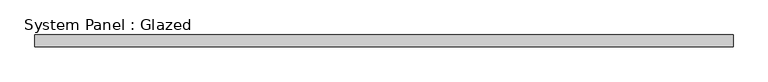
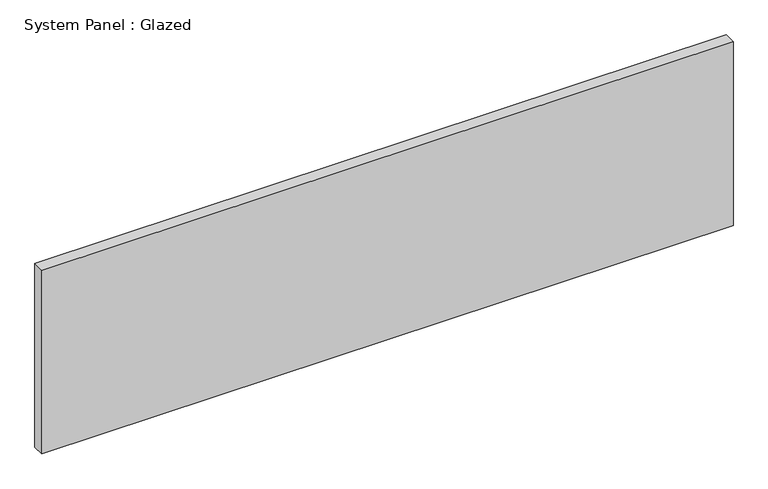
"""IFC4 building model written with IfcOpenShell, lengths in millimetres: plate geometry, System Panel : Glazed."""

from ifc_helpers import new_model, si_unit, origin, origin_with_axes, place, context, project, spatial, polyline, outline, extrude, source, transform, mapped, element, save


def system_panel_glazed_99bfd8de(model_context):
    return source(origin(), model_context, "Body", "SweptSolid", [
        extrude(outline(polyline([(724.5000001, 24.5), (-724.5000001, 24.5), (-724.5000001, 49.5), (724.5000001, 49.5), (724.5000001, 24.5)])), origin_with_axes(), (0.0, 0.0, 1.0), 407.2),
    ])


if __name__ == "__main__":
    model = new_model("IFC4")
    model_context = context("Model", 3, world=origin())
    ifc_project = project(units=[si_unit("LENGTHUNIT", "METRE", prefix="MILLI")], contexts=[model_context])
    site = spatial("IfcSite", under=ifc_project)
    building = spatial("IfcBuilding", under=site)
    placement = place(None, origin())
    system_panel_glazed_shape = system_panel_glazed_99bfd8de(model_context)
    element("IfcPlate", 1, ObjectType="System Panel : Glazed", at=placement, inside=building, context=model_context, shape_type="MappedRepresentation", body=[
        mapped(system_panel_glazed_shape, transform((0.0, 0.0, 0.0), x_axis=(1.0, 0.0, 0.0), y_axis=(0.0, 1.0, 0.0), z_axis=(0.0, 0.0, 1.0))),
    ])
    save(model, "model.ifc")
